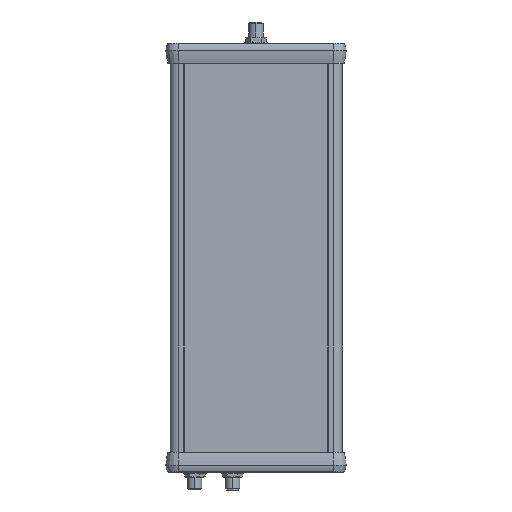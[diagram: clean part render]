
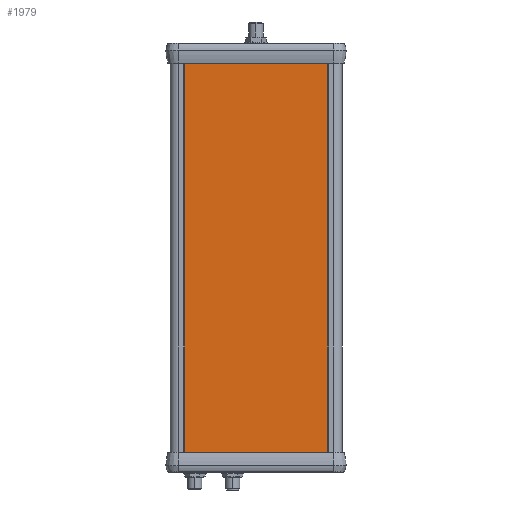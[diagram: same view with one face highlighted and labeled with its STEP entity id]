
A CAD part, front view. The second image highlights one B-rep face of the part: STEP entity #1979.
In plain terms, the highlighted planar face has unit normal (0, -1, 0).
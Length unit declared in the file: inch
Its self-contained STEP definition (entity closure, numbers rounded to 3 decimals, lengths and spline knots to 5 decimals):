
#268 = DIRECTION ( 'NONE',  ( 0., 1., 0. ) ) ;
#1069 = EDGE_CURVE ( 'NONE', #9591, #10452, #8475, .T. ) ;
#1236 = VECTOR ( 'NONE', #6130, 39.37008 ) ;
#1979 = ADVANCED_FACE ( 'NONE', ( #4020 ), #9101, .F. ) ;
#2125 = LINE ( 'NONE', #8460, #1236 ) ;
#2141 = VERTEX_POINT ( 'NONE', #15381 ) ;
#2323 = CARTESIAN_POINT ( 'NONE',  ( 0.256, 0., -0.35211 ) ) ;
#2730 = ORIENTED_EDGE ( 'NONE', *, *, #1069, .T. ) ;
#2768 = ORIENTED_EDGE ( 'NONE', *, *, #9001, .F. ) ;
#3144 = CARTESIAN_POINT ( 'NONE',  ( 2.791, 0., -0.35211 ) ) ;
#4020 = FACE_OUTER_BOUND ( 'NONE', #7729, .T. ) ;
#4360 = DIRECTION ( 'NONE',  ( 0., 0., 1. ) ) ;
#5625 = CARTESIAN_POINT ( 'NONE',  ( 2.791, 0., -0.35211 ) ) ;
#6130 = DIRECTION ( 'NONE',  ( -1., 0., 0. ) ) ;
#6158 = EDGE_CURVE ( 'NONE', #2141, #7258, #2125, .T. ) ;
#6410 = ORIENTED_EDGE ( 'NONE', *, *, #6158, .F. ) ;
#6961 = LINE ( 'NONE', #12432, #10926 ) ;
#7258 = VERTEX_POINT ( 'NONE', #15040 ) ;
#7582 = VECTOR ( 'NONE', #8242, 39.37008 ) ;
#7729 = EDGE_LOOP ( 'NONE', ( #6410, #11865, #2730, #2768 ) ) ;
#8242 = DIRECTION ( 'NONE',  ( -1., 0., 0. ) ) ;
#8460 = CARTESIAN_POINT ( 'NONE',  ( -0.02472, 0., -7.24046 ) ) ;
#8475 = LINE ( 'NONE', #3144, #7582 ) ;
#9001 = EDGE_CURVE ( 'NONE', #7258, #10452, #9604, .T. ) ;
#9101 = PLANE ( 'NONE',  #15637 ) ;
#9591 = VERTEX_POINT ( 'NONE', #5625 ) ;
#9604 = LINE ( 'NONE', #14680, #11695 ) ;
#9809 = EDGE_CURVE ( 'NONE', #2141, #9591, #6961, .T. ) ;
#10452 = VERTEX_POINT ( 'NONE', #2323 ) ;
#10926 = VECTOR ( 'NONE', #16275, 39.37008 ) ;
#11048 = DIRECTION ( 'NONE',  ( 1., 0., 0. ) ) ;
#11695 = VECTOR ( 'NONE', #4360, 39.37008 ) ;
#11865 = ORIENTED_EDGE ( 'NONE', *, *, #9809, .T. ) ;
#12432 = CARTESIAN_POINT ( 'NONE',  ( 2.791, 0., -7.41812 ) ) ;
#14178 = CARTESIAN_POINT ( 'NONE',  ( 2.791, 0., -7.41812 ) ) ;
#14680 = CARTESIAN_POINT ( 'NONE',  ( 0.256, 0., -7.41812 ) ) ;
#15040 = CARTESIAN_POINT ( 'NONE',  ( 0.256, 0., -7.24046 ) ) ;
#15381 = CARTESIAN_POINT ( 'NONE',  ( 2.791, 0., -7.24046 ) ) ;
#15637 = AXIS2_PLACEMENT_3D ( 'NONE', #14178, #268, #11048 ) ;
#16275 = DIRECTION ( 'NONE',  ( 0., 0., 1. ) ) ;
